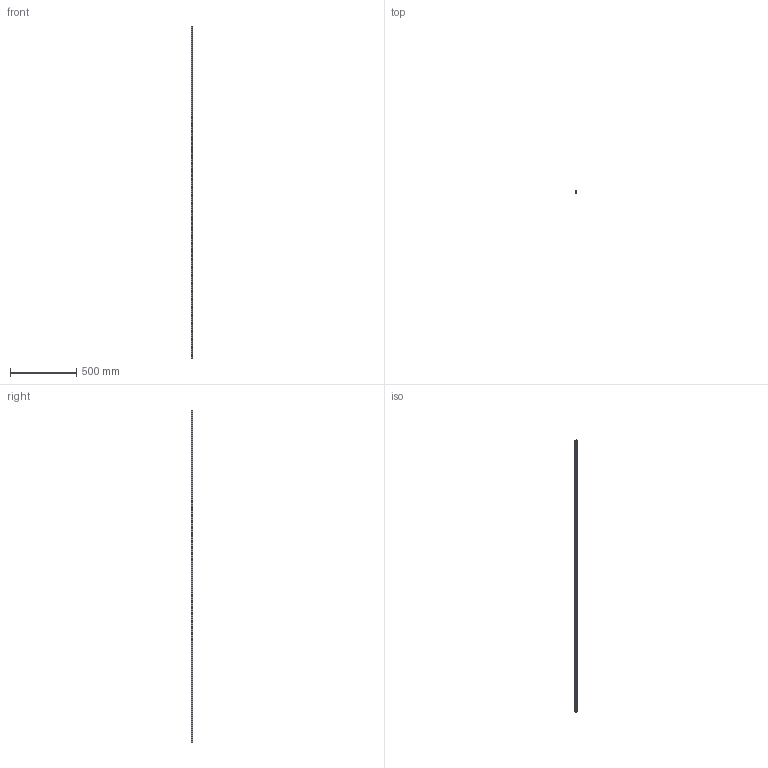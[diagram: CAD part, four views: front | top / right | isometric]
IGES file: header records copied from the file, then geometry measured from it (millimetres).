
Start section: SolidWorks IGES file using analytic representation for surfaces
Global section: file name: C:\Users\IanO\Desktop\L1016_v2\L1016.BL15_v2\L1016.BL15_v2_20190611_IGES\L1016.BL15-2500.igs; native system: SolidWorks 2017; preprocessor: SolidWorks 2017; author: IanO; date: 190612.123233; units: millimetre
Bounding box: 15 x 13 x 2500 mm (x, y, z)
Surface area: 152749.5 mm2 (no closed solid volume)
Topology: 0 solids, 0 shells, 236 faces, 6200 edges, 6200 vertices
Faces by surface type: revolution 172, bspline 64
